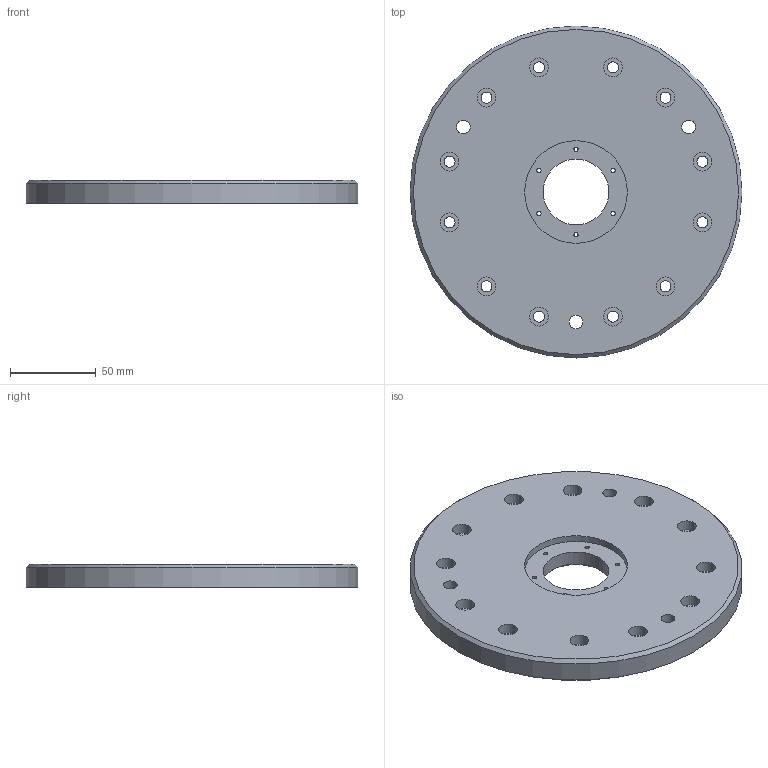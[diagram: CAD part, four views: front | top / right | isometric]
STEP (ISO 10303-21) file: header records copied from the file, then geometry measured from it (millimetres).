
FILE_DESCRIPTION(/* description */ ('Lid Baremodule Jig'),/* implementation_level */ '2;1');
FILE_NAME(/* name */ 'Z:\Werkstatt Server\Projekte\Atlas\Entwicklung u. Konstruktion\Konstruktion\CAD Daten\ITkPixToolV2.0\Baremodule Jig\ITPTv2.01.00.02.stp',/* time_stamp */ '2021-08-06T14:37:31+02:00',/* author */ ('Tim Kanngießer'),/* organization */ (''),/* preprocessor_version */ 'ST-DEVELOPER v18.1',/* originating_system */ 'Autodesk Inventor 2022',/* authorisation */ '');
FILE_SCHEMA (('AUTOMOTIVE_DESIGN { 1 0 10303 214 3 1 1 }'));
Length unit declared in the file: millimetre
Products named in the file (1): ITPTv2.01.00.02
Bounding box: 194 x 194 x 14 mm (x, y, z)
Volume: 374564.6 mm3; surface area: 71508.9 mm2
Topology: 1 solids, 1 shells, 83 faces, 185 edges, 119 vertices
Faces by surface type: cylinder 50, plane 17, cone 16
Full cylindrical faces by diameter (mm): 2.459 x6, 6.4 x13, 8 x3, 10 x1, 11 x23, 12 x1, 38.376 x1, 60 x1, 194 x1
Entity records: 2477 total; most frequent: DIRECTION 470, CARTESIAN_POINT 387, ORIENTED_EDGE 368, AXIS2_PLACEMENT_3D 202, EDGE_CURVE 184, EDGE_LOOP 143, VERTEX_POINT 119, CIRCLE 118
